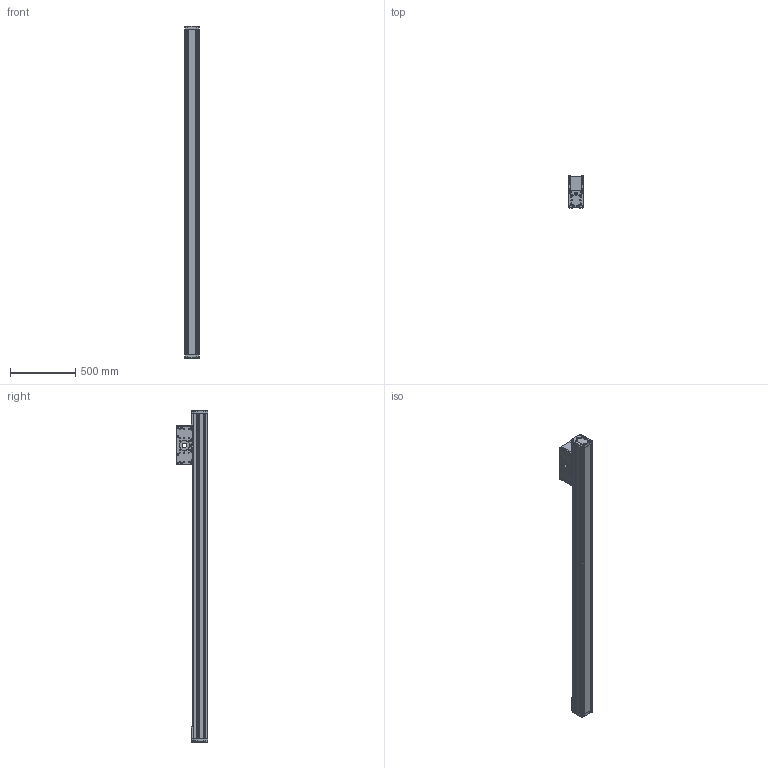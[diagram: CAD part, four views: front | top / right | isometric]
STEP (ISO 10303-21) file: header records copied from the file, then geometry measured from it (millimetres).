
FILE_DESCRIPTION(/* description */ ('STEP AP214'),/* implementation_level */ '2;1');
FILE_NAME(/* name */ 'MTJZ 110 2000 0 0 1(0)',/* time_stamp */ '2026-06-25T11:58:29+02:00',/* author */ ('License CC BY-ND 4.0'),/* organization */ ('CADENAS'),/* preprocessor_version */ 'ST-DEVELOPER v20',/* originating_system */ 'PARTsolutions',/* authorisation */ ' ');
FILE_SCHEMA (('AUTOMOTIVE_DESIGN {1 0 10303 214 3 1 1}'));
Length unit declared in the file: millimetre
Products named in the file (4): MTJZ 110 2000 0 0 1(0); MTJZ 110_end_block; MTJZ 110 2000(0)_profil; MTJZ 110 0 0_drive_block
Assembly tree (4 placements, depth 2):
  MTJZ 110 2000 0 0 1(0)
    MTJZ 110_end_block  x2
    MTJZ 110 2000(0)_profil
    MTJZ 110 0 0_drive_block
Bounding box: 122 x 241 x 2542 mm (x, y, z)
Volume: 32878047.5 mm3; surface area: 2592657 mm2
Topology: 4 solids, 4 shells, 1077 faces, 2659 edges, 1740 vertices
Faces by surface type: plane 632, cylinder 341, cone 94, torus 8, sphere 2
Full cylindrical faces by diameter (mm): 3.6 x2, 4.134 x4, 4.459 x8, 5 x4, 6.5 x2, 6.647 x56, 8 x2, 9 x20, 10 x4, 11 x4, 13 x20, 14 x8, 15 x18, 16 x8, 17 x8, 18 x2, 20 x2, 35 x1, 76 x2
Entity records: 30212 total; most frequent: DIRECTION 4202, CARTESIAN_POINT 4118, ORIENTED_EDGE 3720, EDGE_CURVE 1860, AXIS2_PLACEMENT_3D 1478, VERTEX_POINT 1370, LINE 1246, VECTOR 1246
